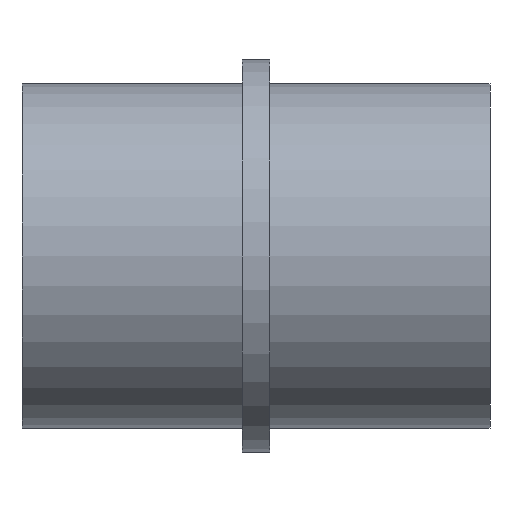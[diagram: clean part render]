
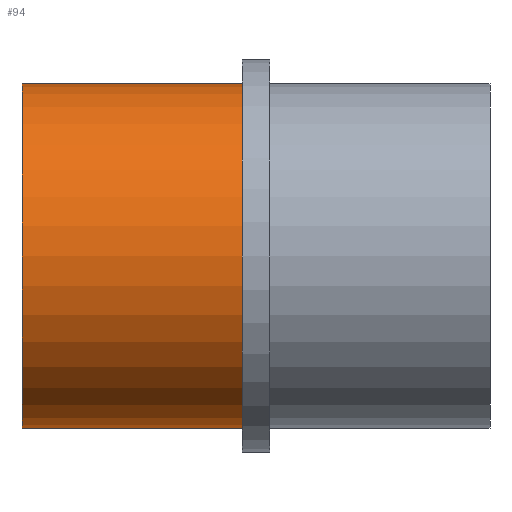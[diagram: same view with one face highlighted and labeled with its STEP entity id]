
A CAD part, front view. The second image highlights one B-rep face of the part: STEP entity #94.
In plain terms, the highlighted cylindrical face has radius 25 mm (diameter 50 mm), a full revolution.
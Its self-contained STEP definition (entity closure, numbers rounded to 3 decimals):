
#18=FACE_BOUND($,#35,.T.);
#28=FACE_OUTER_BOUND($,#34,.T.);
#34=EDGE_LOOP($,(#74));
#35=EDGE_LOOP($,(#75));
#50=CIRCLE($,#106,25.);
#51=CIRCLE($,#107,25.);
#58=VERTEX_POINT($,#157);
#59=VERTEX_POINT($,#159);
#66=EDGE_CURVE($,#58,#58,#50,.T.);
#67=EDGE_CURVE($,#59,#59,#51,.T.);
#74=ORIENTED_EDGE($,*,*,#66,.F.);
#75=ORIENTED_EDGE($,*,*,#67,.T.);
#90=CYLINDRICAL_SURFACE($,#105,25.);
#94=ADVANCED_FACE($,(#28,#18),#90,.T.);
#105=AXIS2_PLACEMENT_3D($,#156,#123,#124);
#106=AXIS2_PLACEMENT_3D($,#158,#125,#126);
#107=AXIS2_PLACEMENT_3D($,#160,#127,#128);
#123=DIRECTION('center_axis',(1.,0.,0.));
#124=DIRECTION('ref_axis',(0.,1.,0.));
#125=DIRECTION('center_axis',(1.,0.,0.));
#126=DIRECTION('ref_axis',(0.,1.,0.));
#127=DIRECTION('center_axis',(1.,0.,0.));
#128=DIRECTION('ref_axis',(0.,1.,0.));
#156=CARTESIAN_POINT('Origin',(16.,0.,0.));
#157=CARTESIAN_POINT('',(32.,25.,0.));
#158=CARTESIAN_POINT('Origin',(32.,0.,0.));
#159=CARTESIAN_POINT('',(0.,25.,0.));
#160=CARTESIAN_POINT('Origin',(0.,0.,
0.));
